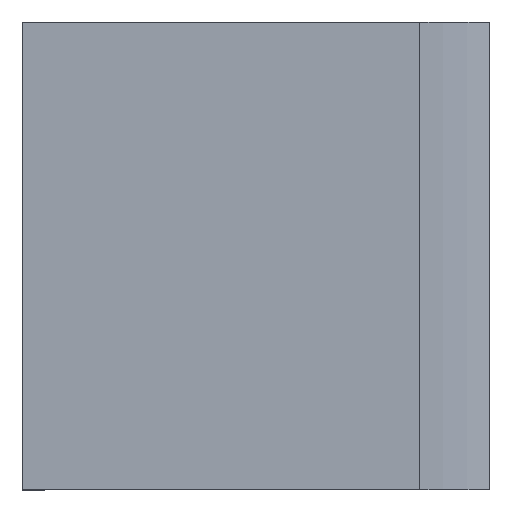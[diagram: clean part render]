
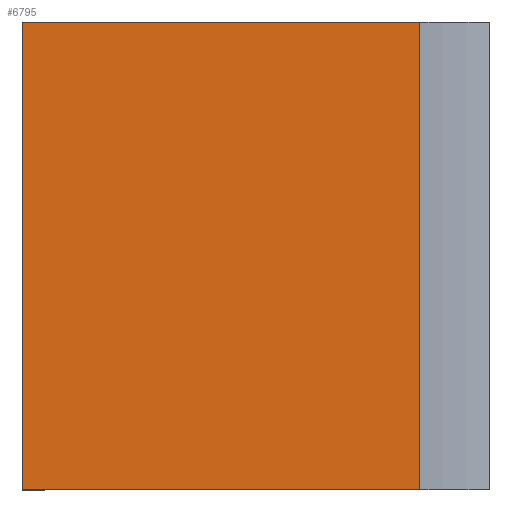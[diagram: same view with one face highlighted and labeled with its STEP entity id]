
A CAD part, top view. The second image highlights one B-rep face of the part: STEP entity #6795.
In plain terms, the highlighted planar face has unit normal (0, 0, 1).
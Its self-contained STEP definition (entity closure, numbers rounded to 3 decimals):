
#71 = PLANE('',#72);
#72 = AXIS2_PLACEMENT_3D('',#73,#74,#75);
#73 = CARTESIAN_POINT('',(12.,-15.,-12.));
#74 = DIRECTION('',(-0.,1.,0.));
#75 = DIRECTION('',(0.,0.,1.));
#130 = PLANE('',#131);
#131 = AXIS2_PLACEMENT_3D('',#132,#133,#134);
#132 = CARTESIAN_POINT('',(12.,-15.,-12.));
#133 = DIRECTION('',(1.,0.,-0.));
#134 = DIRECTION('',(0.,0.,1.));
#156 = PLANE('',#157);
#157 = AXIS2_PLACEMENT_3D('',#158,#159,#160);
#158 = CARTESIAN_POINT('',(12.,5.,-12.));
#159 = DIRECTION('',(-0.,1.,0.));
#160 = DIRECTION('',(0.,0.,1.));
#3620 = VERTEX_POINT('',#3621);
#3621 = CARTESIAN_POINT('',(12.,5.,0.));
#3642 = EDGE_CURVE('',#3643,#3620,#3645,.T.);
#3643 = VERTEX_POINT('',#3644);
#3644 = CARTESIAN_POINT('',(29.,5.,0.));
#3645 = SURFACE_CURVE('',#3646,(#3650,#3656),.PCURVE_S1.);
#3646 = LINE('',#3647,#3648);
#3647 = CARTESIAN_POINT('',(6.,5.,0.));
#3648 = VECTOR('',#3649,1.);
#3649 = DIRECTION('',(-1.,-0.,0.));
#3650 = PCURVE('',#156,#3651);
#3651 = DEFINITIONAL_REPRESENTATION('',(#3652),#3655);
#3652 = B_SPLINE_CURVE_WITH_KNOTS('',1,(#3653,#3654),.UNSPECIFIED.,.F.,
  .F.,(2,2),(-23.,-6.),.PIECEWISE_BEZIER_KNOTS.);
#3653 = CARTESIAN_POINT('',(12.,17.));
#3654 = CARTESIAN_POINT('',(12.,0.));
#3655 = ( GEOMETRIC_REPRESENTATION_CONTEXT(2) 
PARAMETRIC_REPRESENTATION_CONTEXT() REPRESENTATION_CONTEXT('2D SPACE',''
  ) );
#3656 = PCURVE('',#3657,#3662);
#3657 = PLANE('',#3658);
#3658 = AXIS2_PLACEMENT_3D('',#3659,#3660,#3661);
#3659 = CARTESIAN_POINT('',(0.,0.,0.));
#3660 = DIRECTION('',(0.,0.,1.));
#3661 = DIRECTION('',(1.,0.,-0.));
#3662 = DEFINITIONAL_REPRESENTATION('',(#3663),#3666);
#3663 = B_SPLINE_CURVE_WITH_KNOTS('',1,(#3664,#3665),.UNSPECIFIED.,.F.,
  .F.,(2,2),(-23.,-6.),.PIECEWISE_BEZIER_KNOTS.);
#3664 = CARTESIAN_POINT('',(29.,5.));
#3665 = CARTESIAN_POINT('',(12.,5.));
#3666 = ( GEOMETRIC_REPRESENTATION_CONTEXT(2) 
PARAMETRIC_REPRESENTATION_CONTEXT() REPRESENTATION_CONTEXT('2D SPACE',''
  ) );
#3683 = CYLINDRICAL_SURFACE('',#3684,10.);
#3684 = AXIS2_PLACEMENT_3D('',#3685,#3686,#3687);
#3685 = CARTESIAN_POINT('',(29.,0.,-10.));
#3686 = DIRECTION('',(0.,1.,0.));
#3687 = DIRECTION('',(0.707,-0.,0.707));
#3701 = VERTEX_POINT('',#3702);
#3702 = CARTESIAN_POINT('',(12.,-15.,0.));
#3921 = EDGE_CURVE('',#3701,#3620,#3922,.T.);
#3922 = SURFACE_CURVE('',#3923,(#3927,#3933),.PCURVE_S1.);
#3923 = LINE('',#3924,#3925);
#3924 = CARTESIAN_POINT('',(12.,-7.5,0.));
#3925 = VECTOR('',#3926,1.);
#3926 = DIRECTION('',(-0.,1.,0.));
#3927 = PCURVE('',#130,#3928);
#3928 = DEFINITIONAL_REPRESENTATION('',(#3929),#3932);
#3929 = B_SPLINE_CURVE_WITH_KNOTS('',1,(#3930,#3931),.UNSPECIFIED.,.F.,
  .F.,(2,2),(-7.5,12.5),.PIECEWISE_BEZIER_KNOTS.);
#3930 = CARTESIAN_POINT('',(12.,0.));
#3931 = CARTESIAN_POINT('',(12.,-20.));
#3932 = ( GEOMETRIC_REPRESENTATION_CONTEXT(2) 
PARAMETRIC_REPRESENTATION_CONTEXT() REPRESENTATION_CONTEXT('2D SPACE',''
  ) );
#3933 = PCURVE('',#3657,#3934);
#3934 = DEFINITIONAL_REPRESENTATION('',(#3935),#3938);
#3935 = B_SPLINE_CURVE_WITH_KNOTS('',1,(#3936,#3937),.UNSPECIFIED.,.F.,
  .F.,(2,2),(-7.5,12.5),.PIECEWISE_BEZIER_KNOTS.);
#3936 = CARTESIAN_POINT('',(12.,-15.));
#3937 = CARTESIAN_POINT('',(12.,5.));
#3938 = ( GEOMETRIC_REPRESENTATION_CONTEXT(2) 
PARAMETRIC_REPRESENTATION_CONTEXT() REPRESENTATION_CONTEXT('2D SPACE',''
  ) );
#4037 = EDGE_CURVE('',#4038,#3701,#4040,.T.);
#4038 = VERTEX_POINT('',#4039);
#4039 = CARTESIAN_POINT('',(29.,-15.,0.));
#4040 = SURFACE_CURVE('',#4041,(#4045,#4051),.PCURVE_S1.);
#4041 = LINE('',#4042,#4043);
#4042 = CARTESIAN_POINT('',(6.,-15.,0.));
#4043 = VECTOR('',#4044,1.);
#4044 = DIRECTION('',(-1.,-0.,0.));
#4045 = PCURVE('',#71,#4046);
#4046 = DEFINITIONAL_REPRESENTATION('',(#4047),#4050);
#4047 = B_SPLINE_CURVE_WITH_KNOTS('',1,(#4048,#4049),.UNSPECIFIED.,.F.,
  .F.,(2,2),(-23.,-6.),.PIECEWISE_BEZIER_KNOTS.);
#4048 = CARTESIAN_POINT('',(12.,17.));
#4049 = CARTESIAN_POINT('',(12.,0.));
#4050 = ( GEOMETRIC_REPRESENTATION_CONTEXT(2) 
PARAMETRIC_REPRESENTATION_CONTEXT() REPRESENTATION_CONTEXT('2D SPACE',''
  ) );
#4051 = PCURVE('',#3657,#4052);
#4052 = DEFINITIONAL_REPRESENTATION('',(#4053),#4056);
#4053 = B_SPLINE_CURVE_WITH_KNOTS('',1,(#4054,#4055),.UNSPECIFIED.,.F.,
  .F.,(2,2),(-23.,-6.),.PIECEWISE_BEZIER_KNOTS.);
#4054 = CARTESIAN_POINT('',(29.,-15.));
#4055 = CARTESIAN_POINT('',(12.,-15.));
#4056 = ( GEOMETRIC_REPRESENTATION_CONTEXT(2) 
PARAMETRIC_REPRESENTATION_CONTEXT() REPRESENTATION_CONTEXT('2D SPACE',''
  ) );
#6773 = EDGE_CURVE('',#3643,#4038,#6774,.T.);
#6774 = SURFACE_CURVE('',#6775,(#6779,#6786),.PCURVE_S1.);
#6775 = LINE('',#6776,#6777);
#6776 = CARTESIAN_POINT('',(29.,0.,0.));
#6777 = VECTOR('',#6778,1.);
#6778 = DIRECTION('',(0.,-1.,0.));
#6779 = PCURVE('',#3683,#6780);
#6780 = DEFINITIONAL_REPRESENTATION('',(#6781),#6785);
#6781 = LINE('',#6782,#6783);
#6782 = CARTESIAN_POINT('',(-0.785,0.));
#6783 = VECTOR('',#6784,1.);
#6784 = DIRECTION('',(0.,-1.));
#6785 = ( GEOMETRIC_REPRESENTATION_CONTEXT(2) 
PARAMETRIC_REPRESENTATION_CONTEXT() REPRESENTATION_CONTEXT('2D SPACE',''
  ) );
#6786 = PCURVE('',#3657,#6787);
#6787 = DEFINITIONAL_REPRESENTATION('',(#6788),#6792);
#6788 = LINE('',#6789,#6790);
#6789 = CARTESIAN_POINT('',(29.,0.));
#6790 = VECTOR('',#6791,1.);
#6791 = DIRECTION('',(0.,-1.));
#6792 = ( GEOMETRIC_REPRESENTATION_CONTEXT(2) 
PARAMETRIC_REPRESENTATION_CONTEXT() REPRESENTATION_CONTEXT('2D SPACE',''
  ) );
#6795 = ADVANCED_FACE('',(#6796),#3657,.T.);
#6796 = FACE_BOUND('',#6797,.T.);
#6797 = EDGE_LOOP('',(#6798,#6799,#6800,#6801));
#6798 = ORIENTED_EDGE('',*,*,#4037,.F.);
#6799 = ORIENTED_EDGE('',*,*,#6773,.F.);
#6800 = ORIENTED_EDGE('',*,*,#3642,.T.);
#6801 = ORIENTED_EDGE('',*,*,#3921,.F.);
